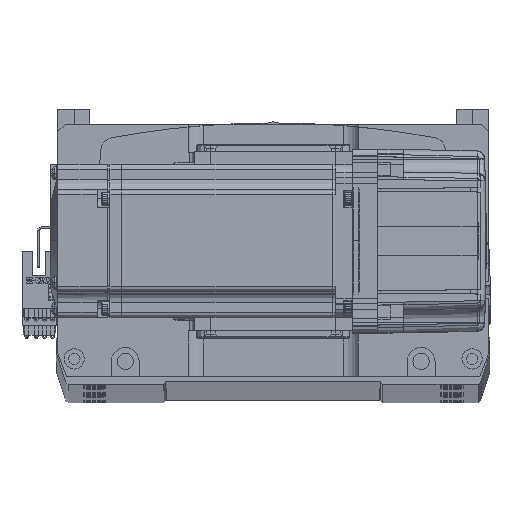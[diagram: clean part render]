
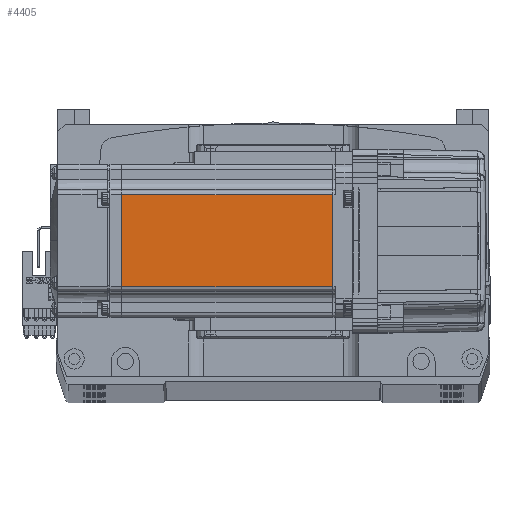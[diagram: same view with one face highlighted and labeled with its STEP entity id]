
A CAD part, top view. The second image highlights one B-rep face of the part: STEP entity #4405.
In plain terms, the highlighted planar face has unit normal (0, 0, 1).
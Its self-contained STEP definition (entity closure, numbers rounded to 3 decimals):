
#3389 = DIRECTION ( 'NONE',  ( 0., 0., 1. ) ) ;
#4405 = ADVANCED_FACE ( 'NONE', ( #38684 ), #44519, .T. ) ;
#5252 = LINE ( 'NONE', #6939, #19016 ) ;
#6939 = CARTESIAN_POINT ( 'NONE',  ( -90.45, 0., 30. ) ) ;
#7324 = EDGE_CURVE ( 'NONE', #25868, #57445, #47396, .T. ) ;
#7723 = VERTEX_POINT ( 'NONE', #42313 ) ;
#13886 = CARTESIAN_POINT ( 'NONE',  ( -90.45, -18., 30. ) ) ;
#14552 = DIRECTION ( 'NONE',  ( -1., 0., 0. ) ) ;
#14941 = ORIENTED_EDGE ( 'NONE', *, *, #74789, .F. ) ;
#16499 = CARTESIAN_POINT ( 'NONE',  ( -6.5, 18., 30. ) ) ;
#19016 = VECTOR ( 'NONE', #42171, 1000. ) ;
#19065 = VECTOR ( 'NONE', #55100, 1000. ) ;
#25868 = VERTEX_POINT ( 'NONE', #63463 ) ;
#26276 = ORIENTED_EDGE ( 'NONE', *, *, #7324, .F. ) ;
#27268 = LINE ( 'NONE', #61382, #19065 ) ;
#28269 = DIRECTION ( 'NONE',  ( -1., 0., 0. ) ) ;
#31346 = VERTEX_POINT ( 'NONE', #42563 ) ;
#32215 = CARTESIAN_POINT ( 'NONE',  ( -6.5, -18., 30. ) ) ;
#36460 = VECTOR ( 'NONE', #14552, 1000. ) ;
#37968 = VECTOR ( 'NONE', #28269, 1000. ) ;
#38684 = FACE_OUTER_BOUND ( 'NONE', #57099, .T. ) ;
#42171 = DIRECTION ( 'NONE',  ( 0., -1., 0. ) ) ;
#42313 = CARTESIAN_POINT ( 'NONE',  ( -7.75, 18., 30. ) ) ;
#42563 = CARTESIAN_POINT ( 'NONE',  ( -90.45, 18., 30. ) ) ;
#44519 = PLANE ( 'NONE',  #52948 ) ;
#47396 = LINE ( 'NONE', #32215, #36460 ) ;
#48117 = EDGE_CURVE ( 'NONE', #31346, #57445, #5252, .T. ) ;
#49848 = DIRECTION ( 'NONE',  ( 1., 0., 0. ) ) ;
#52948 = AXIS2_PLACEMENT_3D ( 'NONE', #61774, #3389, #49848 ) ;
#55100 = DIRECTION ( 'NONE',  ( 0., -1., 0. ) ) ;
#57099 = EDGE_LOOP ( 'NONE', ( #14941, #62135, #58992, #26276 ) ) ;
#57445 = VERTEX_POINT ( 'NONE', #13886 ) ;
#58992 = ORIENTED_EDGE ( 'NONE', *, *, #48117, .T. ) ;
#61382 = CARTESIAN_POINT ( 'NONE',  ( -7.75, 0., 30. ) ) ;
#61774 = CARTESIAN_POINT ( 'NONE',  ( -6.5, -25., 30. ) ) ;
#62135 = ORIENTED_EDGE ( 'NONE', *, *, #69369, .T. ) ;
#63463 = CARTESIAN_POINT ( 'NONE',  ( -7.75, -18., 30. ) ) ;
#68899 = LINE ( 'NONE', #16499, #37968 ) ;
#69369 = EDGE_CURVE ( 'NONE', #7723, #31346, #68899, .T. ) ;
#74789 = EDGE_CURVE ( 'NONE', #7723, #25868, #27268, .T. ) ;
